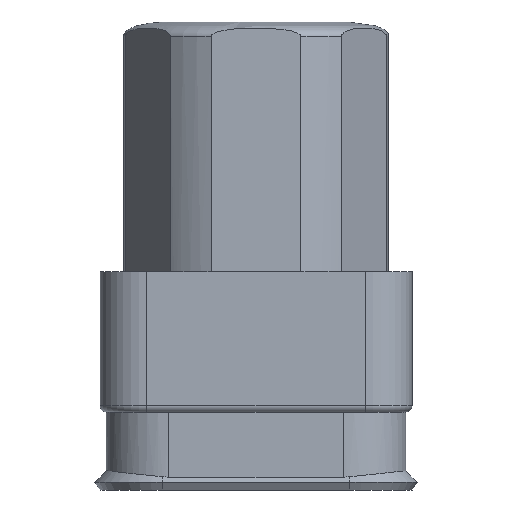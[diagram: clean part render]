
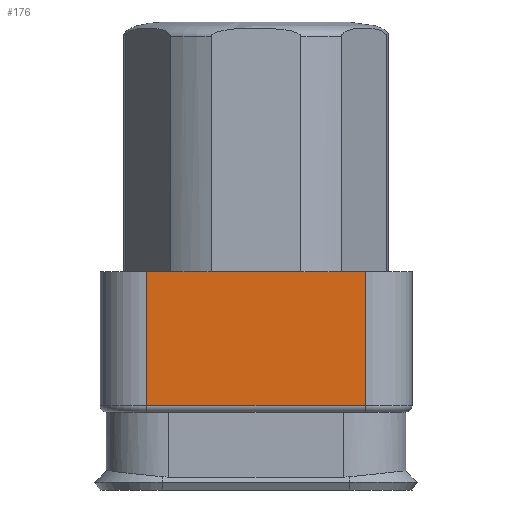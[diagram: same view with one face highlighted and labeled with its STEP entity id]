
A CAD part, front view. The second image highlights one B-rep face of the part: STEP entity #176.
In plain terms, the highlighted planar face has unit normal (0, -1, 0).
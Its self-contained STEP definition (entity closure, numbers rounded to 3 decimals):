
#176 = ADVANCED_FACE( '', ( #360 ), #361, .T. );
#360 = FACE_OUTER_BOUND( '', #546, .T. );
#361 = PLANE( '', #547 );
#546 = EDGE_LOOP( '', ( #1007, #1008, #1009, #1010, #1011, #1012 ) );
#547 = AXIS2_PLACEMENT_3D( '', #1013, #1014, #1015 );
#1007 = ORIENTED_EDGE( '', *, *, #1214, .F. );
#1008 = ORIENTED_EDGE( '', *, *, #1243, .T. );
#1009 = ORIENTED_EDGE( '', *, *, #1238, .T. );
#1010 = ORIENTED_EDGE( '', *, *, #1165, .F. );
#1011 = ORIENTED_EDGE( '', *, *, #1226, .F. );
#1012 = ORIENTED_EDGE( '', *, *, #1122, .F. );
#1013 = CARTESIAN_POINT( '', ( -3.5, -3.5, -6. ) );
#1014 = DIRECTION( '', ( 0., -1., 0. ) );
#1015 = DIRECTION( '', ( 0., 0., -1. ) );
#1122 = EDGE_CURVE( '', #1344, #1261, #1345, .T. );
#1165 = EDGE_CURVE( '', #1411, #1413, #1414, .T. );
#1214 = EDGE_CURVE( '', #1439, #1344, #1480, .T. );
#1226 = EDGE_CURVE( '', #1261, #1411, #1494, .T. );
#1238 = EDGE_CURVE( '', #1458, #1413, #1506, .T. );
#1243 = EDGE_CURVE( '', #1439, #1458, #1511, .T. );
#1261 = VERTEX_POINT( '', #1531 );
#1344 = VERTEX_POINT( '', #1707 );
#1345 = LINE( '', #1708, #1709 );
#1411 = VERTEX_POINT( '', #1881 );
#1413 = VERTEX_POINT( '', #1883 );
#1414 = LINE( '', #1884, #1885 );
#1439 = VERTEX_POINT( '', #1917 );
#1458 = VERTEX_POINT( '', #1939 );
#1480 = LINE( '', #1970, #1971 );
#1494 = LINE( '', #2015, #2016 );
#1506 = LINE( '', #2030, #2031 );
#1511 = LINE( '', #2037, #2038 );
#1531 = CARTESIAN_POINT( '', ( -2.411, -3.5, -1.5 ) );
#1707 = CARTESIAN_POINT( '', ( -3.5, -3.5, -1.5 ) );
#1708 = CARTESIAN_POINT( '', ( -3.5, -3.5, -1.5 ) );
#1709 = VECTOR( '', #2126, 1000. );
#1881 = CARTESIAN_POINT( '', ( 2.411, -3.5, -1.5 ) );
#1883 = CARTESIAN_POINT( '', ( 3.5, -3.5, -1.5 ) );
#1884 = CARTESIAN_POINT( '', ( -3.5, -3.5, -1.5 ) );
#1885 = VECTOR( '', #2192, 1000. );
#1917 = CARTESIAN_POINT( '', ( -3.5, -3.5, -5.8 ) );
#1939 = CARTESIAN_POINT( '', ( 3.5, -3.5, -5.8 ) );
#1970 = CARTESIAN_POINT( '', ( -3.5, -3.5, -6. ) );
#1971 = VECTOR( '', #2257, 1000. );
#2015 = CARTESIAN_POINT( '', ( -3.5, -3.5, -1.5 ) );
#2016 = VECTOR( '', #2271, 1000. );
#2030 = CARTESIAN_POINT( '', ( 3.5, -3.5, -6. ) );
#2031 = VECTOR( '', #2280, 1000. );
#2037 = CARTESIAN_POINT( '', ( 3.5, -3.5, -5.8 ) );
#2038 = VECTOR( '', #2282, 1000. );
#2126 = DIRECTION( '', ( 1., 0., 0. ) );
#2192 = DIRECTION( '', ( 1., 0., 0. ) );
#2257 = DIRECTION( '', ( 0., 0., 1. ) );
#2271 = DIRECTION( '', ( 1., 0., 0. ) );
#2280 = DIRECTION( '', ( 0., 0., 1. ) );
#2282 = DIRECTION( '', ( 1., 0., 0. ) );
